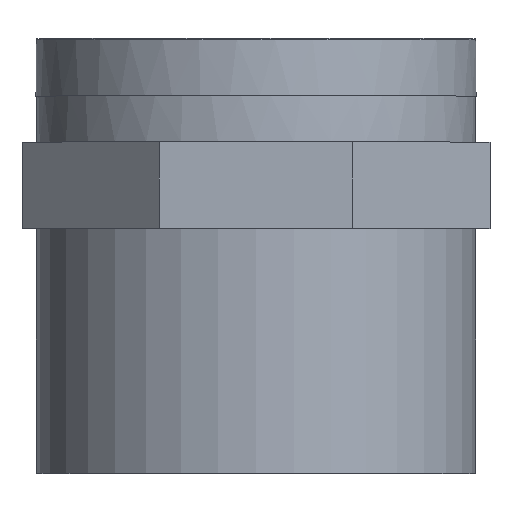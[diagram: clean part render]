
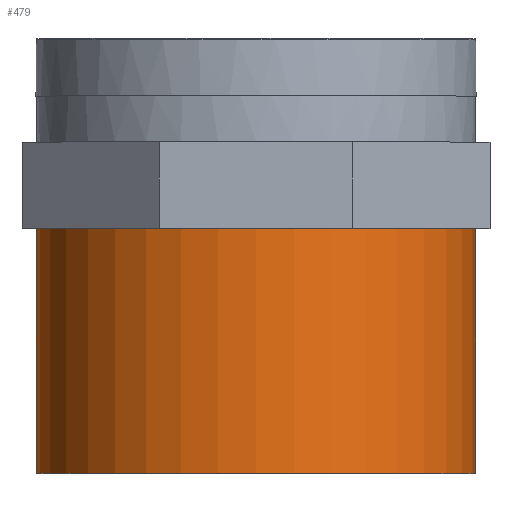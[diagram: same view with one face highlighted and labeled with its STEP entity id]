
A CAD part, top view. The second image highlights one B-rep face of the part: STEP entity #479.
In plain terms, the highlighted cylindrical face has radius 30.5 mm (diameter 61 mm), a full revolution.
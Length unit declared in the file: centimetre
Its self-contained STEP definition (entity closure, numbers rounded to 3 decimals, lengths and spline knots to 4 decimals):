
#90=CYLINDRICAL_SURFACE('',#523,3.05);
#105=FACE_BOUND('',#178,.T.);
#134=FACE_OUTER_BOUND('',#177,.T.);
#177=EDGE_LOOP('',(#393));
#178=EDGE_LOOP('',(#394));
#191=CIRCLE('',#508,3.05);
#198=CIRCLE('',#522,3.05);
#232=VERTEX_POINT('',#4125);
#238=VERTEX_POINT('',#4145);
#286=EDGE_CURVE('',#232,#232,#191,.T.);
#293=EDGE_CURVE('',#238,#238,#198,.T.);
#393=ORIENTED_EDGE('',*,*,#286,.T.);
#394=ORIENTED_EDGE('',*,*,#293,.T.);
#479=ADVANCED_FACE('',(#134,#105),#90,.T.);
#508=AXIS2_PLACEMENT_3D('',#4126,#603,#604);
#522=AXIS2_PLACEMENT_3D('',#4146,#631,#632);
#523=AXIS2_PLACEMENT_3D('',#4147,#633,#634);
#603=DIRECTION('center_axis',(0.,-1.,0.));
#604=DIRECTION('ref_axis',(-1.,0.,0.));
#631=DIRECTION('center_axis',(0.,1.,0.));
#632=DIRECTION('ref_axis',(1.,0.,0.));
#633=DIRECTION('center_axis',(0.,1.,0.));
#634=DIRECTION('ref_axis',(-1.,0.,0.));
#4125=CARTESIAN_POINT('',(3.05,-1.9797,0.));
#4126=CARTESIAN_POINT('Origin',(0.,-1.9797,0.));
#4145=CARTESIAN_POINT('',(-3.05,-5.3797,0.));
#4146=CARTESIAN_POINT('Origin',(0.,-5.3797,0.));
#4147=CARTESIAN_POINT('Origin',(0.,-2.3797,0.));
